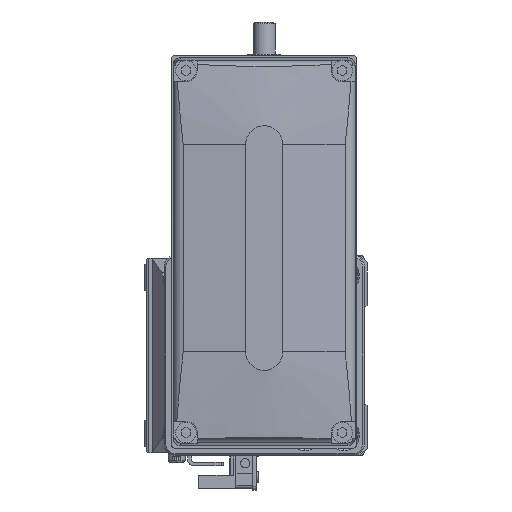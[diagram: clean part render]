
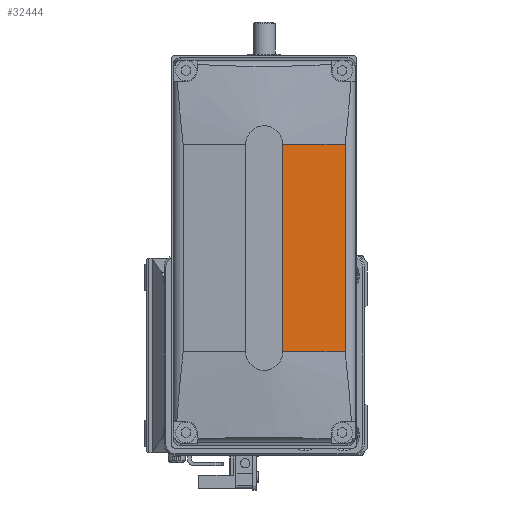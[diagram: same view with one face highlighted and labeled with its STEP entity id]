
A CAD part, left-side view. The second image highlights one B-rep face of the part: STEP entity #32444.
In plain terms, the highlighted planar face has unit normal (-0.996, -0.087, 0) as drawn and (-0.996, 0, -0.087) by its records, which use the part's own axes.
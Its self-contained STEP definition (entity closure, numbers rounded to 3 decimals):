
#2792 = VERTEX_POINT ( 'NONE', #15322 ) ;
#2810 = DIRECTION ( 'NONE',  ( -0.087, 0., 0.996 ) ) ;
#3021 = CARTESIAN_POINT ( 'NONE',  ( -48.525, 128., -21.861 ) ) ;
#3521 = DIRECTION ( 'NONE',  ( 0., 1., 0. ) ) ;
#4747 = VECTOR ( 'NONE', #3521, 1000. ) ;
#7338 = EDGE_CURVE ( 'NONE', #17675, #20341, #28436, .T. ) ;
#9537 = ORIENTED_EDGE ( 'NONE', *, *, #9692, .F. ) ;
#9692 = EDGE_CURVE ( 'NONE', #20341, #2792, #24784, .T. ) ;
#10015 = ORIENTED_EDGE ( 'NONE', *, *, #15793, .T. ) ;
#11228 = ORIENTED_EDGE ( 'NONE', *, *, #7338, .F. ) ;
#11687 = AXIS2_PLACEMENT_3D ( 'NONE', #16968, #14208, #2810 ) ;
#12701 = EDGE_LOOP ( 'NONE', ( #9537, #11228, #20397, #10015 ) ) ;
#13119 = VECTOR ( 'NONE', #19038, 1000. ) ;
#13972 = LINE ( 'NONE', #30239, #24319 ) ;
#14208 = DIRECTION ( 'NONE',  ( -0.996, 0., -0.087 ) ) ;
#15322 = CARTESIAN_POINT ( 'NONE',  ( -50., 28., -5. ) ) ;
#15793 = EDGE_CURVE ( 'NONE', #25311, #2792, #13972, .T. ) ;
#16968 = CARTESIAN_POINT ( 'NONE',  ( -50., 128., -5. ) ) ;
#17182 = FACE_OUTER_BOUND ( 'NONE', #12701, .T. ) ;
#17675 = VERTEX_POINT ( 'NONE', #22671 ) ;
#17900 = EDGE_CURVE ( 'NONE', #25311, #17675, #23749, .T. ) ;
#19038 = DIRECTION ( 'NONE',  ( -0.087, 0., 0.996 ) ) ;
#20341 = VERTEX_POINT ( 'NONE', #22119 ) ;
#20397 = ORIENTED_EDGE ( 'NONE', *, *, #17900, .F. ) ;
#21833 = CARTESIAN_POINT ( 'NONE',  ( 43606.406, 28., -499000. ) ) ;
#22119 = CARTESIAN_POINT ( 'NONE',  ( -48.525, 28., -21.861 ) ) ;
#22671 = CARTESIAN_POINT ( 'NONE',  ( -48.525, -28., -21.861 ) ) ;
#22864 = VECTOR ( 'NONE', #26848, 1000. ) ;
#23749 = LINE ( 'NONE', #26481, #22864 ) ;
#24319 = VECTOR ( 'NONE', #30111, 1000. ) ;
#24784 = LINE ( 'NONE', #21833, #13119 ) ;
#25311 = VERTEX_POINT ( 'NONE', #31471 ) ;
#25623 = PLANE ( 'NONE',  #11687 ) ;
#26481 = CARTESIAN_POINT ( 'NONE',  ( 43606.406, -28., -499000. ) ) ;
#26848 = DIRECTION ( 'NONE',  ( 0.087, 0., -0.996 ) ) ;
#28436 = LINE ( 'NONE', #3021, #4747 ) ;
#30111 = DIRECTION ( 'NONE',  ( 0., 1., 0. ) ) ;
#30239 = CARTESIAN_POINT ( 'NONE',  ( -50., 128., -5. ) ) ;
#31471 = CARTESIAN_POINT ( 'NONE',  ( -50., -28., -5. ) ) ;
#32444 = ADVANCED_FACE ( 'NONE', ( #17182 ), #25623, .T. ) ;
